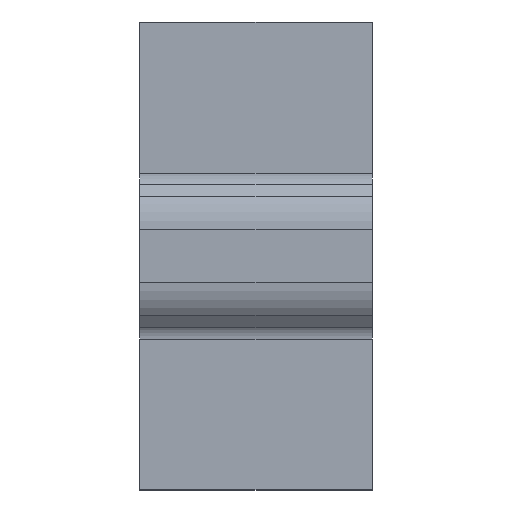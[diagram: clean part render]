
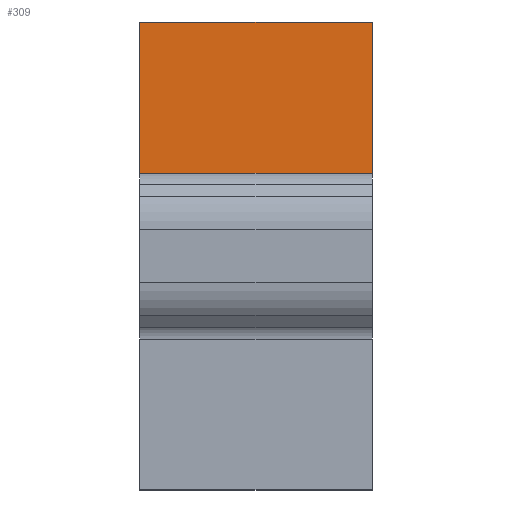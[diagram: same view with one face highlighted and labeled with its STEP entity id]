
A CAD part, top view. The second image highlights one B-rep face of the part: STEP entity #309.
In plain terms, the highlighted planar face has unit normal (0, 0, 1).
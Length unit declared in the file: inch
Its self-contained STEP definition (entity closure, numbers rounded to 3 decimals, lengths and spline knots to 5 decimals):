
#139=CARTESIAN_POINT('',(-2.75591,-0.57669,129.99173));
#140=VERTEX_POINT('',#139);
#148=CARTESIAN_POINT('',(-2.75591,-0.15542,129.99173));
#149=VERTEX_POINT('',#148);
#150=CARTESIAN_POINT('',(-2.75591,-4.9404,129.99173));
#151=DIRECTION('',(0.,-1.,0.));
#152=VECTOR('',#151,1.);
#153=LINE('',#150,#152);
#154=EDGE_CURVE('',#149,#140,#153,.T.);
#248=CARTESIAN_POINT('',(-2.1063,-0.15542,129.99173));
#249=VERTEX_POINT('',#248);
#250=CARTESIAN_POINT('',(-2.06594,-0.15542,129.99173));
#251=DIRECTION('',(-1.,0.,0.));
#252=VECTOR('',#251,1.);
#253=LINE('',#250,#252);
#254=EDGE_CURVE('',#249,#149,#253,.T.);
#286=ORIENTED_EDGE('',*,*,#154,.T.);
#287=CARTESIAN_POINT('',(-2.1063,-0.57669,129.99173));
#288=VERTEX_POINT('',#287);
#289=CARTESIAN_POINT('',(-2.75591,-0.57669,129.99173));
#290=DIRECTION('',(1.,0.,0.));
#291=VECTOR('',#290,0.64961);
#292=LINE('',#289,#291);
#293=EDGE_CURVE('',#140,#288,#292,.T.);
#294=ORIENTED_EDGE('',*,*,#293,.T.);
#295=CARTESIAN_POINT('',(-2.1063,-0.57184,129.99173));
#296=DIRECTION('',(0.,-1.,0.));
#297=VECTOR('',#296,0.00484);
#298=LINE('',#295,#297);
#299=EDGE_CURVE('',#249,#288,#298,.T.);
#300=ORIENTED_EDGE('',*,*,#299,.F.);
#301=ORIENTED_EDGE('',*,*,#254,.T.);
#302=EDGE_LOOP('',(#286,#294,#300,#301));
#303=FACE_OUTER_BOUND('',#302,.T.);
#304=CARTESIAN_POINT('',(-3.70472,-0.51869,129.99173));
#305=DIRECTION('',(0.,0.,-1.));
#306=DIRECTION('',(1.,0.,0.));
#307=AXIS2_PLACEMENT_3D('',#304,#305,#306);
#308=PLANE('',#307);
#309=ADVANCED_FACE('',(#303),#308,.F.);
